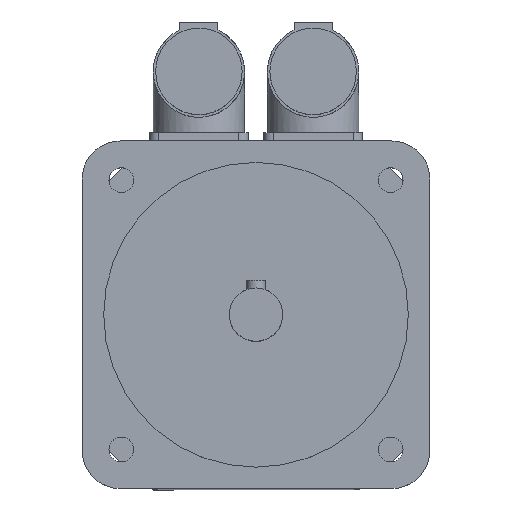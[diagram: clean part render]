
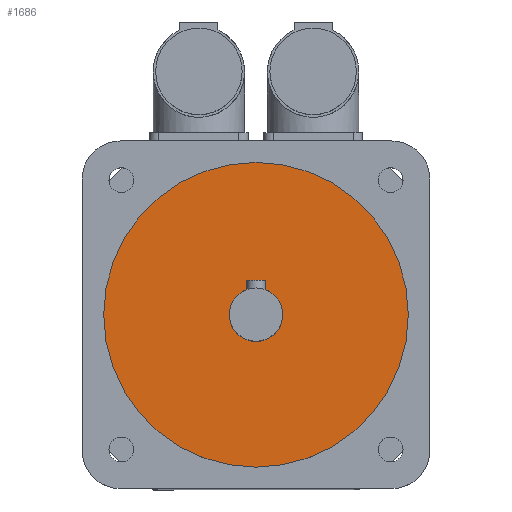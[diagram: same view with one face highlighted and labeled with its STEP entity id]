
A CAD part, top view. The second image highlights one B-rep face of the part: STEP entity #1686.
In plain terms, the highlighted planar face has unit normal (0, 0, 1).
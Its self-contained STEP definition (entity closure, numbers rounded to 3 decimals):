
#28=FACE_BOUND('',#305,.T.);
#53=CIRCLE('',#1788,7.);
#54=CIRCLE('',#1791,40.);
#202=FACE_OUTER_BOUND('',#304,.T.);
#304=EDGE_LOOP('',(#1158));
#305=EDGE_LOOP('',(#1159));
#718=VERTEX_POINT('',#2569);
#719=VERTEX_POINT('',#2573);
#892=EDGE_CURVE('',#718,#718,#53,.T.);
#893=EDGE_CURVE('',#719,#719,#54,.T.);
#1158=ORIENTED_EDGE('',*,*,#893,.T.);
#1159=ORIENTED_EDGE('',*,*,#892,.T.);
#1633=PLANE('',#1793);
#1686=ADVANCED_FACE('',(#202,#28),#1633,.T.);
#1788=AXIS2_PLACEMENT_3D('',#2570,#2000,#2001);
#1791=AXIS2_PLACEMENT_3D('',#2574,#2006,#2007);
#1793=AXIS2_PLACEMENT_3D('',#2577,#2010,#2011);
#2000=DIRECTION('center_axis',(0.,0.,-1.));
#2001=DIRECTION('ref_axis',(-1.,0.,0.));
#2006=DIRECTION('center_axis',(0.,0.,1.));
#2007=DIRECTION('ref_axis',(-1.,0.,0.));
#2010=DIRECTION('center_axis',(0.,0.,1.));
#2011=DIRECTION('ref_axis',(1.,0.,0.));
#2569=CARTESIAN_POINT('',(7.,0.,180.));
#2570=CARTESIAN_POINT('Origin',(0.,0.,180.));
#2573=CARTESIAN_POINT('',(40.,0.,180.));
#2574=CARTESIAN_POINT('Origin',(0.,0.,180.));
#2577=CARTESIAN_POINT('Origin',(0.,0.,
180.));
